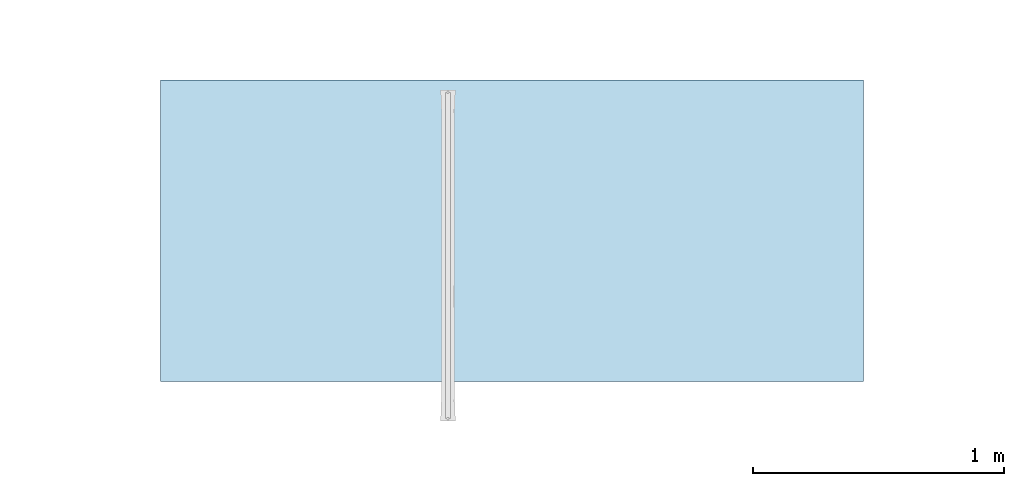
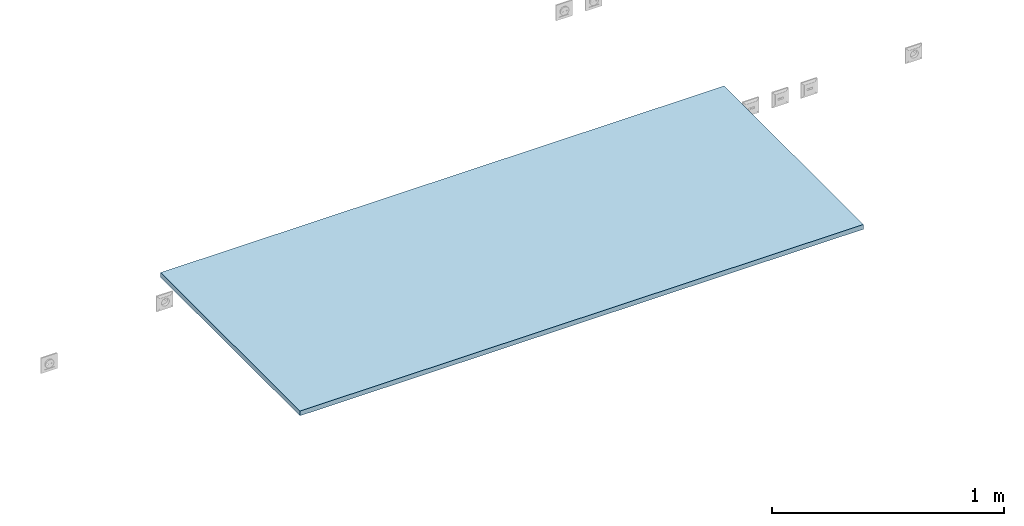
# One storey, part 1 of 146: 1 slab.
"""IFC2X3 building model written with IfcOpenShell, lengths in metres."""

from ifc_helpers import new_model, entity, si_unit, converted_unit, derived_unit, direction, frame, frame_2d, origin, place, context, subcontext, project, spatial, rectangle, extrude, material, layer, layer_set, layer_usage, type_object, element, save


model = new_model("IFC2X3")

# Units and contexts
model_context = context("Model", 3, precision=1e-05, world=origin(), true_north=direction((6.12303176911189e-17, 1.0)))
body_context = subcontext(model_context, "Body", "Model", "MODEL_VIEW")
ifc_project = project(units=[si_unit("LENGTHUNIT", "METRE"), si_unit("AREAUNIT", "SQUARE_METRE"), si_unit("VOLUMEUNIT", "CUBIC_METRE"), converted_unit("PLANEANGLEUNIT", "DEGREE", entity("IfcRatioMeasure", 0.0174532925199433), si_unit("PLANEANGLEUNIT", "RADIAN"), dimensions=[0, 0, 0, 0, 0, 0, 0]), si_unit("MASSUNIT", "GRAM", prefix="KILO"), derived_unit("MASSDENSITYUNIT", [(si_unit("MASSUNIT", "GRAM", prefix="KILO"), 1), (si_unit("LENGTHUNIT", "METRE"), -3)]), si_unit("TIMEUNIT", "SECOND"), si_unit("FREQUENCYUNIT", "HERTZ"), si_unit("THERMODYNAMICTEMPERATUREUNIT", "DEGREE_CELSIUS"), derived_unit("THERMALTRANSMITTANCEUNIT", [(si_unit("MASSUNIT", "GRAM", prefix="KILO"), 1), (si_unit("THERMODYNAMICTEMPERATUREUNIT", "KELVIN"), -1), (si_unit("TIMEUNIT", "SECOND"), -3)]), derived_unit("VOLUMETRICFLOWRATEUNIT", [(si_unit("LENGTHUNIT", "METRE"), 3), (si_unit("TIMEUNIT", "SECOND"), -1)]), si_unit("ELECTRICCURRENTUNIT", "AMPERE"), si_unit("ELECTRICVOLTAGEUNIT", "VOLT"), si_unit("POWERUNIT", "WATT"), si_unit("FORCEUNIT", "NEWTON"), si_unit("ILLUMINANCEUNIT", "LUX"), si_unit("LUMINOUSFLUXUNIT", "LUMEN"), si_unit("LUMINOUSINTENSITYUNIT", "CANDELA"), derived_unit("USERDEFINED", [(si_unit("MASSUNIT", "GRAM", prefix="KILO"), -1), (si_unit("LENGTHUNIT", "METRE"), -2), (si_unit("TIMEUNIT", "SECOND"), 3), (si_unit("LUMINOUSFLUXUNIT", "LUMEN"), 1)]), derived_unit("LINEARVELOCITYUNIT", [(si_unit("LENGTHUNIT", "METRE"), 1), (si_unit("TIMEUNIT", "SECOND"), -1)]), si_unit("PRESSUREUNIT", "PASCAL"), derived_unit("USERDEFINED", [(si_unit("LENGTHUNIT", "METRE"), -2), (si_unit("MASSUNIT", "GRAM", prefix="KILO"), 1), (si_unit("TIMEUNIT", "SECOND"), -2)])], contexts=[model_context])

# Site, building, storey
site_placement = place(None, origin())
site = spatial("IfcSite", under=ifc_project, at=site_placement, Name="Default", CompositionType="ELEMENT")
building_placement = place(site_placement, origin())
building = spatial("IfcBuilding", under=site, at=building_placement, CompositionType="ELEMENT")
storey_placement = place(building_placement, origin())
storey = spatial("IfcBuildingStorey", under=building, at=storey_placement, Name="S01", CompositionType="ELEMENT", Elevation=0.0)

# Slab
ifc_material = material(Name="Bois")
ifc_layer = layer(ifc_material, 0.025)
ifc_layer_set = layer_set([ifc_layer], Name="Floor:Bureau")
ifc_layer_usage = layer_usage(ifc_layer_set, "AXIS3", "POSITIVE", 0.0)
slab_type = type_object("IfcSlabType", Name="Floor:Bureau", PredefinedType="FLOOR", material=ifc_layer_set)
slab_placement = place(storey_placement, origin())
element("IfcSlab", 1, at=slab_placement, inside=storey, type_object=slab_type, material=ifc_layer_usage, Name="Floor:Bureau", ObjectType="Floor:Bureau", PredefinedType="FLOOR", context=body_context, shape_type="SweptSolid", body=[
    extrude(rectangle(XDim=1.20000000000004, YDim=2.79999999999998, at=frame_2d((-1.73194791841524e-14, 4.32986979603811e-15), x_axis=(1.0, 0.0))), frame((49.4077744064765, -191.939268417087, 1.0), z_axis=(0.0, 0.0, -1.0), x_axis=(0.0, 1.0, 0.0)), (0.0, 0.0, 1.0), 0.025),
])

save(model, "model.ifc")
